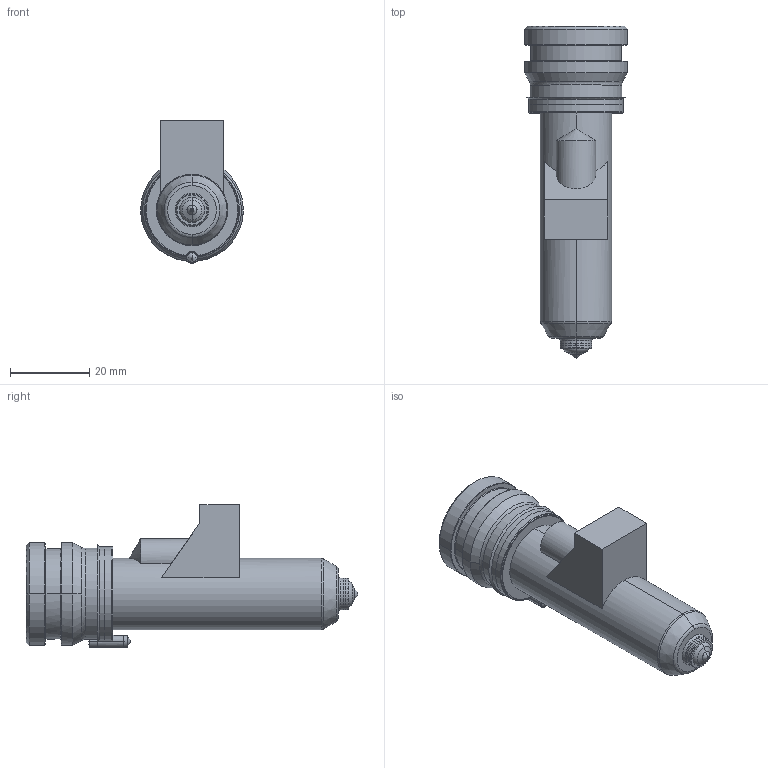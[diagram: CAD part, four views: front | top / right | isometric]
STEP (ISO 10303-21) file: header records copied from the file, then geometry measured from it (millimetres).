
FILE_DESCRIPTION((''),'2;1');
FILE_NAME('TH18066-M-1GLT-PK-JG','2023-12-14T',('umhib'),('Thermoplay S.p.A.'),'PRO/ENGINEER BY PARAMETRIC TECHNOLOGY CORPORATION, 2017170','PRO/ENGINEER BY PARAMETRIC TECHNOLOGY CORPORATION, 2017170','');
FILE_SCHEMA(('CONFIG_CONTROL_DESIGN'));
Length unit declared in the file: millimetre
Products named in the file (1): TH18066-M-1GLT-PK-JG
Bounding box: 26 x 84 x 36.1 mm (x, y, z)
Volume: 18854.1 mm3; surface area: 14935.3 mm2
Topology: 1 solids, 2 shells, 413 faces, 1052 edges, 647 vertices
Faces by surface type: cylinder 160, plane 92, cone 64, torus 64, bspline 22, sphere 9, extrusion 2
Entity records: 16937 total; most frequent: CARTESIAN_POINT 4939, DIRECTION 2166, ORIENTED_EDGE 2078, EDGE_CURVE 1041, AXIS2_PLACEMENT_3D 881, VERTEX_POINT 647, CIRCLE 491, EDGE_LOOP 441
